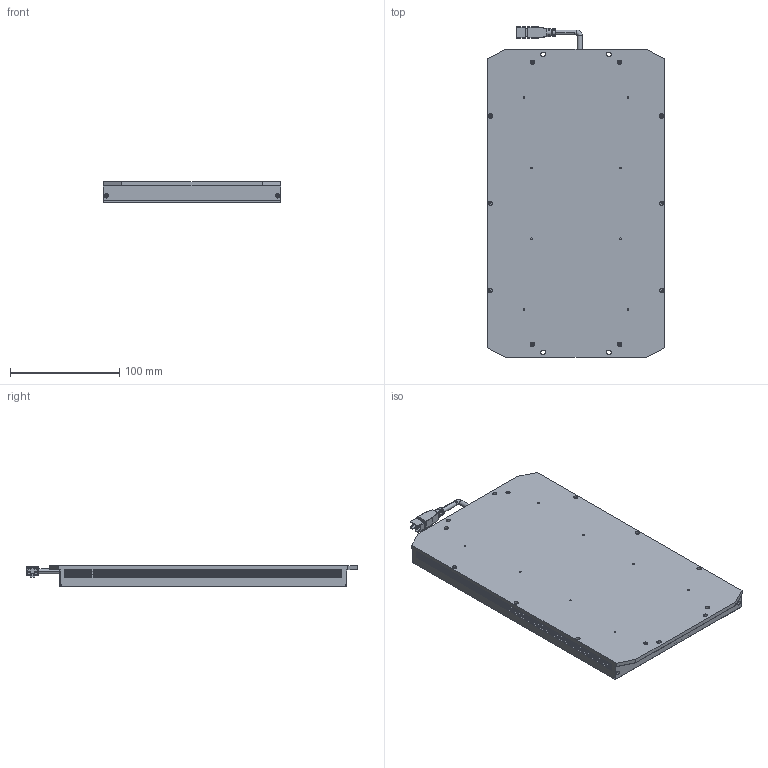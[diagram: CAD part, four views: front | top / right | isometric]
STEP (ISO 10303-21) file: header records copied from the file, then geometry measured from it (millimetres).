
FILE_DESCRIPTION((''),'2;1');
FILE_NAME('PRT0005','2022-11-04T18:15:05',('lizhoupeng'),(''),'CREO PARAMETRIC BY PTC INC, 2020044','CREO PARAMETRIC BY PTC INC, 2020044','');
FILE_SCHEMA(('CONFIG_CONTROL_DESIGN'));
Products named in the file (1): PRT0005
Bounding box: 163 x 302.75 x 19 mm (x, y, z)
Volume: 805943.7 mm3; surface area: 136099 mm2
Topology: 1 solids, 65 shells, 2324 faces, 5748 edges, 3562 vertices
Faces by surface type: plane 1297, cylinder 481, extrusion 292, cone 176, torus 62, sphere 8, bspline 8
Entity records: 69235 total; most frequent: CARTESIAN_POINT 15323, ORIENTED_EDGE 11376, DIRECTION 10390, EDGE_CURVE 5688, VECTOR 3974, LINE 3682, VERTEX_POINT 3562, AXIS2_PLACEMENT_3D 3208
